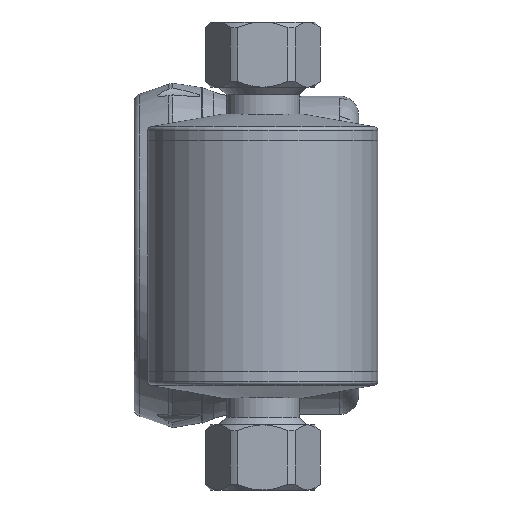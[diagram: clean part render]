
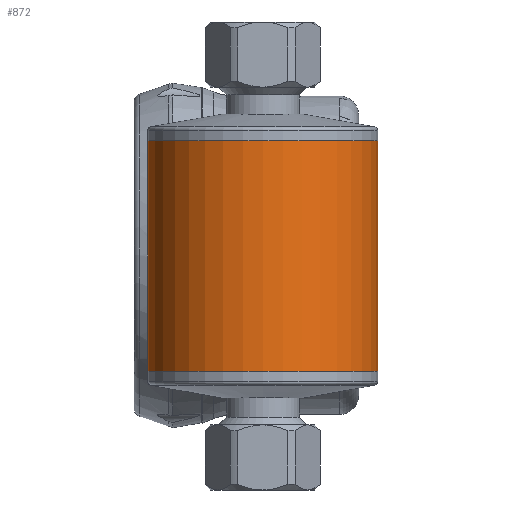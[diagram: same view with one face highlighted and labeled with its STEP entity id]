
A CAD part, front view. The second image highlights one B-rep face of the part: STEP entity #872.
In plain terms, the highlighted cylindrical face has radius 30 mm (diameter 60 mm), a full revolution.
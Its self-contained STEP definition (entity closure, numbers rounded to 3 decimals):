
#67=LINE('',#5357,#144);
#68=LINE('',#5361,#145);
#144=VECTOR('',#4310,1.);
#145=VECTOR('',#4313,1.);
#222=B_SPLINE_CURVE_WITH_KNOTS('',3,(#5363,#5364,#5365,#5366,#5367,#5368,
#5369,#5370,#5371,#5372,#5373,#5374),.UNSPECIFIED.,.F.,.F.,(4,2,2,2,2,4),
(0.,0.25,0.375,0.5,0.75,1.),.UNSPECIFIED.);
#223=B_SPLINE_CURVE_WITH_KNOTS('',3,(#5376,#5377,#5378,#5379,#5380,#5381,
#5382,#5383,#5384,#5385),.UNSPECIFIED.,.F.,.F.,(4,2,2,2,4),(0.,0.25,0.5,
0.75,1.),.UNSPECIFIED.);
#533=CYLINDRICAL_SURFACE('',#3802,30.);
#872=ADVANCED_FACE('',(#1179,#1180,#1181),#533,.T.);
#1179=FACE_BOUND('',#1349,.T.);
#1180=FACE_BOUND('',#1350,.T.);
#1181=FACE_BOUND('',#1351,.T.);
#1349=EDGE_LOOP('',(#1694,#1695,#1696,#1697));
#1350=EDGE_LOOP('',(#1698));
#1351=EDGE_LOOP('',(#1699));
#1694=ORIENTED_EDGE('',*,*,#3038,.F.);
#1695=ORIENTED_EDGE('',*,*,#3037,.T.);
#1696=ORIENTED_EDGE('',*,*,#3039,.T.);
#1697=ORIENTED_EDGE('',*,*,#3035,.T.);
#1698=ORIENTED_EDGE('',*,*,#3040,.F.);
#1699=ORIENTED_EDGE('',*,*,#3041,.T.);
#2682=VERTEX_POINT('',#5355);
#2683=VERTEX_POINT('',#5356);
#2684=VERTEX_POINT('',#5358);
#2685=VERTEX_POINT('',#5360);
#2686=VERTEX_POINT('',#5387);
#2687=VERTEX_POINT('',#5389);
#3035=EDGE_CURVE('',#2684,#2683,#67,.T.);
#3037=EDGE_CURVE('',#2682,#2685,#68,.T.);
#3038=EDGE_CURVE('',#2682,#2683,#222,.T.);
#3039=EDGE_CURVE('',#2685,#2684,#223,.T.);
#3040=EDGE_CURVE('',#2686,#2686,#3538,.T.);
#3041=EDGE_CURVE('',#2687,#2687,#3539,.T.);
#3538=CIRCLE('',#3800,30.);
#3539=CIRCLE('',#3801,30.);
#3800=AXIS2_PLACEMENT_3D('',#5386,#4318,#4319);
#3801=AXIS2_PLACEMENT_3D('',#5388,#4320,#4321);
#3802=AXIS2_PLACEMENT_3D('',#5390,#4322,#4323);
#4310=DIRECTION('',(0.,0.,1.));
#4313=DIRECTION('',(0.,0.,-1.));
#4318=DIRECTION('',(0.,0.,1.));
#4319=DIRECTION('',(1.,0.,0.));
#4320=DIRECTION('',(0.,0.,1.));
#4321=DIRECTION('',(1.,0.,0.));
#4322=DIRECTION('',(0.,0.,-1.));
#4323=DIRECTION('',(1.,0.,0.));
#5355=CARTESIAN_POINT('',(42.23,26.,4.031));
#5356=CARTESIAN_POINT('',(63.77,26.,4.031));
#5357=CARTESIAN_POINT('',(63.77,26.,-4.031));
#5358=CARTESIAN_POINT('',(63.77,26.,-4.031));
#5360=CARTESIAN_POINT('',(42.23,26.,-4.031));
#5361=CARTESIAN_POINT('',(42.23,26.,17.));
#5363=CARTESIAN_POINT('',(42.23,26.,4.031));
#5364=CARTESIAN_POINT('',(42.887,26.253,6.508));
#5365=CARTESIAN_POINT('',(44.151,26.729,8.81));
#5366=CARTESIAN_POINT('',(46.943,27.398,11.457));
#5367=CARTESIAN_POINT('',(48.003,27.605,12.184));
#5368=CARTESIAN_POINT('',(50.39,27.91,13.217));
#5369=CARTESIAN_POINT('',(51.687,27.999,13.497));
#5370=CARTESIAN_POINT('',(55.568,28.002,13.505));
#5371=CARTESIAN_POINT('',(58.096,27.626,12.357));
#5372=CARTESIAN_POINT('',(61.827,26.736,8.842));
#5373=CARTESIAN_POINT('',(63.106,26.256,6.536));
#5374=CARTESIAN_POINT('',(63.77,26.,4.031));
#5376=CARTESIAN_POINT('',(42.23,26.,-4.031));
#5377=CARTESIAN_POINT('',(42.889,26.254,-6.518));
#5378=CARTESIAN_POINT('',(44.16,26.732,-8.821));
#5379=CARTESIAN_POINT('',(47.875,27.621,-12.338));
#5380=CARTESIAN_POINT('',(50.349,27.997,-13.492));
#5381=CARTESIAN_POINT('',(55.594,28.003,-13.508));
#5382=CARTESIAN_POINT('',(58.095,27.626,-12.355));
#5383=CARTESIAN_POINT('',(61.815,26.739,-8.855));
#5384=CARTESIAN_POINT('',(63.11,26.254,-6.522));
#5385=CARTESIAN_POINT('',(63.77,26.,-4.031));
#5386=CARTESIAN_POINT('',(53.,-2.,30.));
#5387=CARTESIAN_POINT('',(83.,-2.,30.));
#5388=CARTESIAN_POINT('',(53.,-2.,-30.));
#5389=CARTESIAN_POINT('',(83.,-2.,-30.));
#5390=CARTESIAN_POINT('',(53.,-2.,17.));
